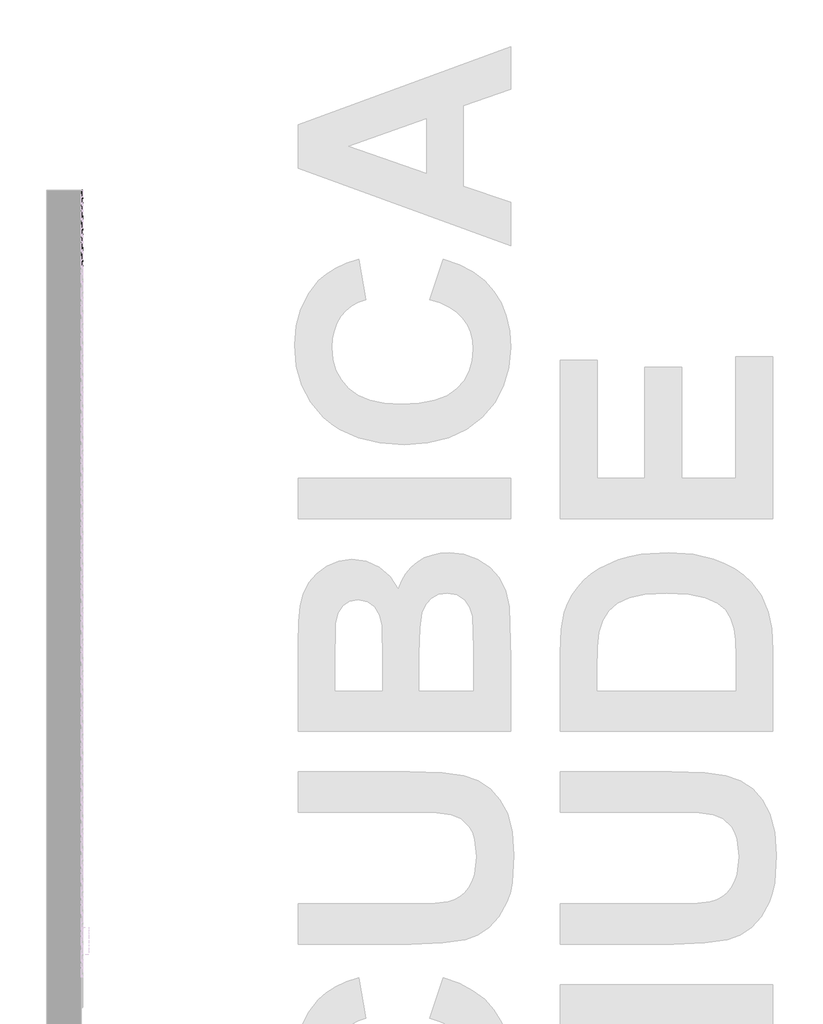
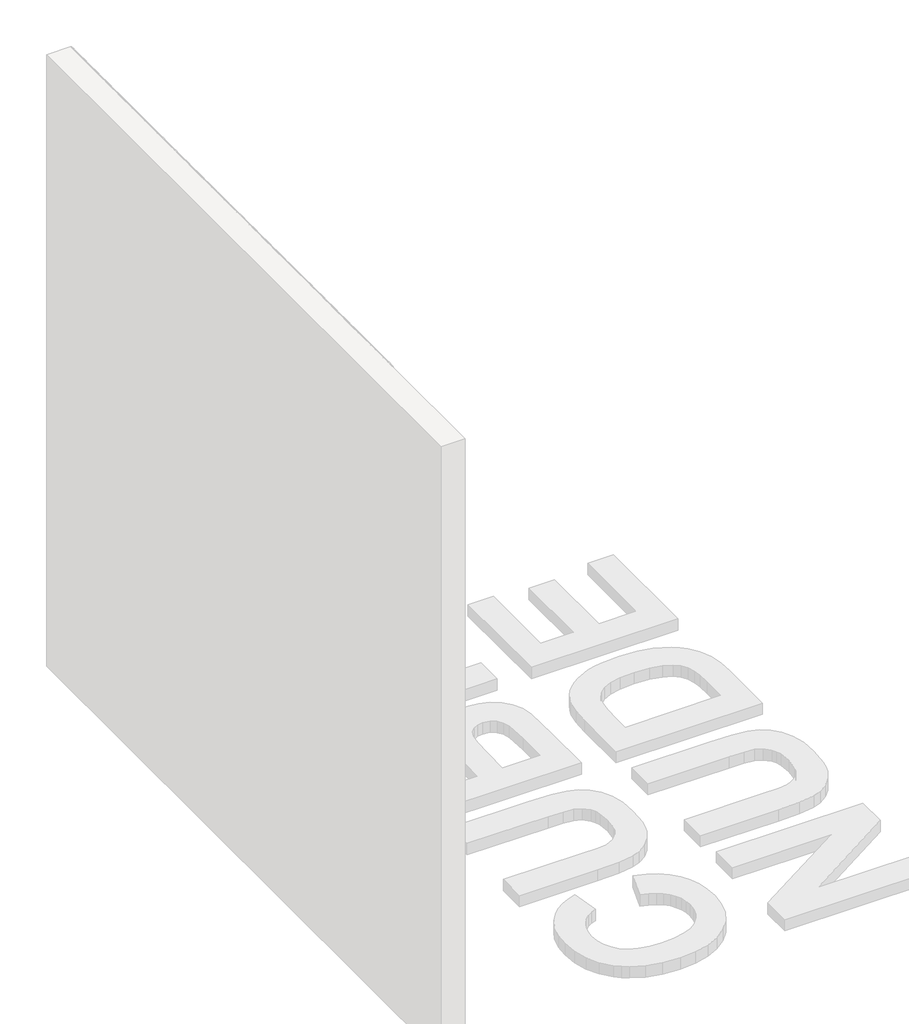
# One storey, part 72 of 121: 144 proxies.
"""IFC4 building model written with IfcOpenShell, lengths in millimetres."""

from ifc_helpers import new_model, si_unit, origin, place, context, project, spatial, transform, mapped, element, save
from components import generic_models_b2b2c5c1, generic_models_9bf73f6f, generic_models_5d175859, generic_models_7dea52c4, generic_models_3c04e8e5, generic_models_61989c10, generic_models_336a48c1

model = new_model("IFC4")

# Units and contexts
model_context = context("Model", 3, world=origin())
ifc_project = project(units=[si_unit("LENGTHUNIT", "METRE", prefix="MILLI")], contexts=[model_context])

# Site, building, storey
site = spatial("IfcSite", under=ifc_project)
building = spatial("IfcBuilding", under=site)
storey = spatial("IfcBuildingStorey", under=building, Name="PORTOBELLO - SHOWROOM", Elevation=0.0)

# Proxies
placement = place(None, origin())
generic_models_shape = generic_models_b2b2c5c1(model_context)
element("IfcBuildingElementProxy", 1, Name="PBSHOP - CUBICA NUDE 4,8X8,3 : CUBICA NUDE - POSIÇÃO 01", ObjectType="PBSHOP - CUBICA NUDE 4,8X8,3 : CUBICA NUDE - POSIÇÃO 01", at=placement, inside=storey, context=model_context, shape_type="MappedRepresentation", body=[
    mapped(generic_models_shape, transform((150369.5341846, 9076.3061883, 276.2260819), x_axis=(0.0, 1.0, 0.0), y_axis=(0.0, 0.0, 1.0), z_axis=(1.0, 0.0, 0.0))),
])
element("IfcBuildingElementProxy", 2, Name="PBSHOP - CUBICA NUDE 4,8X8,3 : CUBICA NUDE - POSIÇÃO 01", ObjectType="PBSHOP - CUBICA NUDE 4,8X8,3 : CUBICA NUDE - POSIÇÃO 01", at=placement, inside=storey, context=model_context, shape_type="MappedRepresentation", body=[
    mapped(generic_models_shape, transform((150369.5341846, 9167.1454575, 276.2260819), x_axis=(0.0, 1.0, 0.0), y_axis=(0.0, 0.0, 1.0), z_axis=(1.0, 0.0, 0.0))),
])
element("IfcBuildingElementProxy", 3, Name="PBSHOP - CUBICA NUDE 4,8X8,3 : CUBICA NUDE - POSIÇÃO 01", ObjectType="PBSHOP - CUBICA NUDE 4,8X8,3 : CUBICA NUDE - POSIÇÃO 01", at=placement, inside=storey, context=model_context, shape_type="MappedRepresentation", body=[
    mapped(generic_models_shape, transform((150369.5341846, 9030.8865536, 355.1607203), x_axis=(0.0, 1.0, 0.0), y_axis=(0.0, 0.0, 1.0), z_axis=(1.0, 0.0, 0.0))),
])
element("IfcBuildingElementProxy", 4, Name="PBSHOP - CUBICA NUDE 4,8X8,3 : CUBICA NUDE - POSIÇÃO 01", ObjectType="PBSHOP - CUBICA NUDE 4,8X8,3 : CUBICA NUDE - POSIÇÃO 01", at=placement, inside=storey, context=model_context, shape_type="MappedRepresentation", body=[
    mapped(generic_models_shape, transform((150369.5341846, 9121.7258229, 355.1607203), x_axis=(0.0, 1.0, 0.0), y_axis=(0.0, 0.0, 1.0), z_axis=(1.0, 0.0, 0.0))),
])
element("IfcBuildingElementProxy", 5, Name="PBSHOP - CUBICA NUDE 4,8X8,3 : CUBICA NUDE - POSIÇÃO 01", ObjectType="PBSHOP - CUBICA NUDE 4,8X8,3 : CUBICA NUDE - POSIÇÃO 01", at=placement, inside=storey, context=model_context, shape_type="MappedRepresentation", body=[
    mapped(generic_models_shape, transform((150369.5341846, 9076.3061883, 434.0953587), x_axis=(0.0, 1.0, 0.0), y_axis=(0.0, 0.0, 1.0), z_axis=(1.0, 0.0, 0.0))),
])
element("IfcBuildingElementProxy", 6, Name="PBSHOP - CUBICA NUDE 4,8X8,3 : CUBICA NUDE - POSIÇÃO 01", ObjectType="PBSHOP - CUBICA NUDE 4,8X8,3 : CUBICA NUDE - POSIÇÃO 01", at=placement, inside=storey, context=model_context, shape_type="MappedRepresentation", body=[
    mapped(generic_models_shape, transform((150369.5341846, 9167.1454575, 434.0953587), x_axis=(0.0, 1.0, 0.0), y_axis=(0.0, 0.0, 1.0), z_axis=(1.0, 0.0, 0.0))),
])
element("IfcBuildingElementProxy", 7, Name="PBSHOP - CUBICA NUDE 4,8X8,3 : CUBICA NUDE - POSIÇÃO 01", ObjectType="PBSHOP - CUBICA NUDE 4,8X8,3 : CUBICA NUDE - POSIÇÃO 01", at=placement, inside=storey, context=model_context, shape_type="MappedRepresentation", body=[
    mapped(generic_models_shape, transform((150369.5341846, 9030.8865536, 513.0299971), x_axis=(0.0, 1.0, 0.0), y_axis=(0.0, 0.0, 1.0), z_axis=(1.0, 0.0, 0.0))),
])
element("IfcBuildingElementProxy", 8, Name="PBSHOP - CUBICA NUDE 4,8X8,3 : CUBICA NUDE - POSIÇÃO 01", ObjectType="PBSHOP - CUBICA NUDE 4,8X8,3 : CUBICA NUDE - POSIÇÃO 01", at=placement, inside=storey, context=model_context, shape_type="MappedRepresentation", body=[
    mapped(generic_models_shape, transform((150369.5341846, 9121.7258229, 513.0299971), x_axis=(0.0, 1.0, 0.0), y_axis=(0.0, 0.0, 1.0), z_axis=(1.0, 0.0, 0.0))),
])
element("IfcBuildingElementProxy", 9, Name="PBSHOP - CUBICA NUDE 4,8X8,3 : CUBICA NUDE - POSIÇÃO 01", ObjectType="PBSHOP - CUBICA NUDE 4,8X8,3 : CUBICA NUDE - POSIÇÃO 01", at=placement, inside=storey, context=model_context, shape_type="MappedRepresentation", body=[
    mapped(generic_models_shape, transform((150369.5341846, 9076.3061883, 591.9646354), x_axis=(0.0, 1.0, 0.0), y_axis=(0.0, 0.0, 1.0), z_axis=(1.0, 0.0, 0.0))),
])
element("IfcBuildingElementProxy", 10, Name="PBSHOP - CUBICA NUDE 4,8X8,3 : CUBICA NUDE - POSIÇÃO 01", ObjectType="PBSHOP - CUBICA NUDE 4,8X8,3 : CUBICA NUDE - POSIÇÃO 01", at=placement, inside=storey, context=model_context, shape_type="MappedRepresentation", body=[
    mapped(generic_models_shape, transform((150369.5341846, 9167.1454575, 591.9646354), x_axis=(0.0, 1.0, 0.0), y_axis=(0.0, 0.0, 1.0), z_axis=(1.0, 0.0, 0.0))),
])
element("IfcBuildingElementProxy", 11, Name="PBSHOP - CUBICA NUDE 4,8X8,3 : CUBICA NUDE - POSIÇÃO 01", ObjectType="PBSHOP - CUBICA NUDE 4,8X8,3 : CUBICA NUDE - POSIÇÃO 01", at=placement, inside=storey, context=model_context, shape_type="MappedRepresentation", body=[
    mapped(generic_models_shape, transform((150369.5341846, 9030.8865536, 670.8992738), x_axis=(0.0, 1.0, 0.0), y_axis=(0.0, 0.0, 1.0), z_axis=(1.0, 0.0, 0.0))),
])
element("IfcBuildingElementProxy", 12, Name="PBSHOP - CUBICA NUDE 4,8X8,3 : CUBICA NUDE - POSIÇÃO 01", ObjectType="PBSHOP - CUBICA NUDE 4,8X8,3 : CUBICA NUDE - POSIÇÃO 01", at=placement, inside=storey, context=model_context, shape_type="MappedRepresentation", body=[
    mapped(generic_models_shape, transform((150369.5341846, 9121.7258229, 670.8992738), x_axis=(0.0, 1.0, 0.0), y_axis=(0.0, 0.0, 1.0), z_axis=(1.0, 0.0, 0.0))),
])
element("IfcBuildingElementProxy", 13, Name="PBSHOP - CUBICA NUDE 4,8X8,3 : CUBICA NUDE - POSIÇÃO 01", ObjectType="PBSHOP - CUBICA NUDE 4,8X8,3 : CUBICA NUDE - POSIÇÃO 01", at=placement, inside=storey, context=model_context, shape_type="MappedRepresentation", body=[
    mapped(generic_models_shape, transform((150369.5341846, 9076.3061883, 749.8339122), x_axis=(0.0, 1.0, 0.0), y_axis=(0.0, 0.0, 1.0), z_axis=(1.0, 0.0, 0.0))),
])
element("IfcBuildingElementProxy", 14, Name="PBSHOP - CUBICA NUDE 4,8X8,3 : CUBICA NUDE - POSIÇÃO 01", ObjectType="PBSHOP - CUBICA NUDE 4,8X8,3 : CUBICA NUDE - POSIÇÃO 01", at=placement, inside=storey, context=model_context, shape_type="MappedRepresentation", body=[
    mapped(generic_models_shape, transform((150369.5341846, 9167.1454575, 749.8339122), x_axis=(0.0, 1.0, 0.0), y_axis=(0.0, 0.0, 1.0), z_axis=(1.0, 0.0, 0.0))),
])
element("IfcBuildingElementProxy", 15, Name="PBSHOP - CUBICA NUDE 4,8X8,3 : CUBICA NUDE - POSIÇÃO 01", ObjectType="PBSHOP - CUBICA NUDE 4,8X8,3 : CUBICA NUDE - POSIÇÃO 01", at=placement, inside=storey, context=model_context, shape_type="MappedRepresentation", body=[
    mapped(generic_models_shape, transform((150369.5341846, 9030.8865536, 828.7685506), x_axis=(0.0, 1.0, 0.0), y_axis=(0.0, 0.0, 1.0), z_axis=(1.0, 0.0, 0.0))),
])
element("IfcBuildingElementProxy", 16, Name="PBSHOP - CUBICA NUDE 4,8X8,3 : CUBICA NUDE - POSIÇÃO 01", ObjectType="PBSHOP - CUBICA NUDE 4,8X8,3 : CUBICA NUDE - POSIÇÃO 01", at=placement, inside=storey, context=model_context, shape_type="MappedRepresentation", body=[
    mapped(generic_models_shape, transform((150369.5341846, 9121.7258229, 828.7685506), x_axis=(0.0, 1.0, 0.0), y_axis=(0.0, 0.0, 1.0), z_axis=(1.0, 0.0, 0.0))),
])
element("IfcBuildingElementProxy", 17, Name="PBSHOP - CUBICA NUDE 4,8X8,3 : CUBICA NUDE - POSIÇÃO 01", ObjectType="PBSHOP - CUBICA NUDE 4,8X8,3 : CUBICA NUDE - POSIÇÃO 01", at=placement, inside=storey, context=model_context, shape_type="MappedRepresentation", body=[
    mapped(generic_models_shape, transform((150369.5341846, 9076.3061883, 907.7031889), x_axis=(0.0, 1.0, 0.0), y_axis=(0.0, 0.0, 1.0), z_axis=(1.0, 0.0, 0.0))),
])
element("IfcBuildingElementProxy", 18, Name="PBSHOP - CUBICA NUDE 4,8X8,3 : CUBICA NUDE - POSIÇÃO 01", ObjectType="PBSHOP - CUBICA NUDE 4,8X8,3 : CUBICA NUDE - POSIÇÃO 01", at=placement, inside=storey, context=model_context, shape_type="MappedRepresentation", body=[
    mapped(generic_models_shape, transform((150369.5341846, 9167.1454575, 907.7031889), x_axis=(0.0, 1.0, 0.0), y_axis=(0.0, 0.0, 1.0), z_axis=(1.0, 0.0, 0.0))),
])
element("IfcBuildingElementProxy", 19, Name="PBSHOP - CUBICA NUDE 4,8X8,3 : CUBICA NUDE - POSIÇÃO 01", ObjectType="PBSHOP - CUBICA NUDE 4,8X8,3 : CUBICA NUDE - POSIÇÃO 01", at=placement, inside=storey, context=model_context, shape_type="MappedRepresentation", body=[
    mapped(generic_models_shape, transform((150369.5341846, 9030.8865536, 986.6378273), x_axis=(0.0, 1.0, 0.0), y_axis=(0.0, 0.0, 1.0), z_axis=(1.0, 0.0, 0.0))),
])
element("IfcBuildingElementProxy", 20, Name="PBSHOP - CUBICA NUDE 4,8X8,3 : CUBICA NUDE - POSIÇÃO 01", ObjectType="PBSHOP - CUBICA NUDE 4,8X8,3 : CUBICA NUDE - POSIÇÃO 01", at=placement, inside=storey, context=model_context, shape_type="MappedRepresentation", body=[
    mapped(generic_models_shape, transform((150369.5341846, 9121.7258229, 986.6378273), x_axis=(0.0, 1.0, 0.0), y_axis=(0.0, 0.0, 1.0), z_axis=(1.0, 0.0, 0.0))),
])
element("IfcBuildingElementProxy", 21, Name="PBSHOP - CUBICA NUDE 4,8X8,3 : CUBICA NUDE - POSIÇÃO 01", ObjectType="PBSHOP - CUBICA NUDE 4,8X8,3 : CUBICA NUDE - POSIÇÃO 01", at=placement, inside=storey, context=model_context, shape_type="MappedRepresentation", body=[
    mapped(generic_models_shape, transform((150369.5341846, 9076.3061883, 1065.5724657), x_axis=(0.0, 1.0, 0.0), y_axis=(0.0, 0.0, 1.0), z_axis=(1.0, 0.0, 0.0))),
])
element("IfcBuildingElementProxy", 22, Name="PBSHOP - CUBICA NUDE 4,8X8,3 : CUBICA NUDE - POSIÇÃO 01", ObjectType="PBSHOP - CUBICA NUDE 4,8X8,3 : CUBICA NUDE - POSIÇÃO 01", at=placement, inside=storey, context=model_context, shape_type="MappedRepresentation", body=[
    mapped(generic_models_shape, transform((150369.5341846, 9167.1454575, 1065.5724657), x_axis=(0.0, 1.0, 0.0), y_axis=(0.0, 0.0, 1.0), z_axis=(1.0, 0.0, 0.0))),
])
element("IfcBuildingElementProxy", 23, Name="PBSHOP - CUBICA NUDE 4,8X8,3 : CUBICA NUDE - POSIÇÃO 01", ObjectType="PBSHOP - CUBICA NUDE 4,8X8,3 : CUBICA NUDE - POSIÇÃO 01", at=placement, inside=storey, context=model_context, shape_type="MappedRepresentation", body=[
    mapped(generic_models_shape, transform((150369.5341846, 9030.8865536, 1144.507104), x_axis=(0.0, 1.0, 0.0), y_axis=(0.0, 0.0, 1.0), z_axis=(1.0, 0.0, 0.0))),
])
element("IfcBuildingElementProxy", 24, Name="PBSHOP - CUBICA NUDE 4,8X8,3 : CUBICA NUDE - POSIÇÃO 01", ObjectType="PBSHOP - CUBICA NUDE 4,8X8,3 : CUBICA NUDE - POSIÇÃO 01", at=placement, inside=storey, context=model_context, shape_type="MappedRepresentation", body=[
    mapped(generic_models_shape, transform((150369.5341846, 9121.7258229, 1144.507104), x_axis=(0.0, 1.0, 0.0), y_axis=(0.0, 0.0, 1.0), z_axis=(1.0, 0.0, 0.0))),
])
element("IfcBuildingElementProxy", 25, Name="PBSHOP - CUBICA NUDE 4,8X8,3 : CUBICA NUDE - POSIÇÃO 01", ObjectType="PBSHOP - CUBICA NUDE 4,8X8,3 : CUBICA NUDE - POSIÇÃO 01", at=placement, inside=storey, context=model_context, shape_type="MappedRepresentation", body=[
    mapped(generic_models_shape, transform((150369.5341846, 9076.3061883, 1223.4417424), x_axis=(0.0, 1.0, 0.0), y_axis=(0.0, 0.0, 1.0), z_axis=(1.0, 0.0, 0.0))),
])
element("IfcBuildingElementProxy", 26, Name="PBSHOP - CUBICA NUDE 4,8X8,3 : CUBICA NUDE - POSIÇÃO 01", ObjectType="PBSHOP - CUBICA NUDE 4,8X8,3 : CUBICA NUDE - POSIÇÃO 01", at=placement, inside=storey, context=model_context, shape_type="MappedRepresentation", body=[
    mapped(generic_models_shape, transform((150369.5341846, 9167.1454575, 1223.4417424), x_axis=(0.0, 1.0, 0.0), y_axis=(0.0, 0.0, 1.0), z_axis=(1.0, 0.0, 0.0))),
])
element("IfcBuildingElementProxy", 27, Name="PBSHOP - CUBICA NUDE 4,8X8,3 : CUBICA NUDE - POSIÇÃO 01", ObjectType="PBSHOP - CUBICA NUDE 4,8X8,3 : CUBICA NUDE - POSIÇÃO 01", at=placement, inside=storey, context=model_context, shape_type="MappedRepresentation", body=[
    mapped(generic_models_shape, transform((150369.5341846, 9030.8865536, 1302.3763808), x_axis=(0.0, 1.0, 0.0), y_axis=(0.0, 0.0, 1.0), z_axis=(1.0, 0.0, 0.0))),
])
element("IfcBuildingElementProxy", 28, Name="PBSHOP - CUBICA NUDE 4,8X8,3 : CUBICA NUDE - POSIÇÃO 01", ObjectType="PBSHOP - CUBICA NUDE 4,8X8,3 : CUBICA NUDE - POSIÇÃO 01", at=placement, inside=storey, context=model_context, shape_type="MappedRepresentation", body=[
    mapped(generic_models_shape, transform((150369.5341846, 9121.7258229, 1302.3763808), x_axis=(0.0, 1.0, 0.0), y_axis=(0.0, 0.0, 1.0), z_axis=(1.0, 0.0, 0.0))),
])
element("IfcBuildingElementProxy", 29, Name="PBSHOP - CUBICA NUDE 4,8X8,3 : CUBICA NUDE - POSIÇÃO 01", ObjectType="PBSHOP - CUBICA NUDE 4,8X8,3 : CUBICA NUDE - POSIÇÃO 01", at=placement, inside=storey, context=model_context, shape_type="MappedRepresentation", body=[
    mapped(generic_models_shape, transform((150369.5341846, 9076.3061883, 1381.3110192), x_axis=(0.0, 1.0, 0.0), y_axis=(0.0, 0.0, 1.0), z_axis=(1.0, 0.0, 0.0))),
])
element("IfcBuildingElementProxy", 30, Name="PBSHOP - CUBICA NUDE 4,8X8,3 : CUBICA NUDE - POSIÇÃO 01", ObjectType="PBSHOP - CUBICA NUDE 4,8X8,3 : CUBICA NUDE - POSIÇÃO 01", at=placement, inside=storey, context=model_context, shape_type="MappedRepresentation", body=[
    mapped(generic_models_shape, transform((150369.5341846, 9167.1454575, 1381.3110192), x_axis=(0.0, 1.0, 0.0), y_axis=(0.0, 0.0, 1.0), z_axis=(1.0, 0.0, 0.0))),
])
element("IfcBuildingElementProxy", 31, Name="PBSHOP - CUBICA NUDE 4,8X8,3 : CUBICA NUDE - POSIÇÃO 01", ObjectType="PBSHOP - CUBICA NUDE 4,8X8,3 : CUBICA NUDE - POSIÇÃO 01", at=placement, inside=storey, context=model_context, shape_type="MappedRepresentation", body=[
    mapped(generic_models_shape, transform((150369.5341846, 9030.8865536, 1460.2456575), x_axis=(0.0, 1.0, 0.0), y_axis=(0.0, 0.0, 1.0), z_axis=(1.0, 0.0, 0.0))),
])
element("IfcBuildingElementProxy", 32, Name="PBSHOP - CUBICA NUDE 4,8X8,3 : CUBICA NUDE - POSIÇÃO 01", ObjectType="PBSHOP - CUBICA NUDE 4,8X8,3 : CUBICA NUDE - POSIÇÃO 01", at=placement, inside=storey, context=model_context, shape_type="MappedRepresentation", body=[
    mapped(generic_models_shape, transform((150369.5341846, 9121.7258229, 1460.2456575), x_axis=(0.0, 1.0, 0.0), y_axis=(0.0, 0.0, 1.0), z_axis=(1.0, 0.0, 0.0))),
])
element("IfcBuildingElementProxy", 33, Name="PBSHOP - CUBICA NUDE 4,8X8,3 : CUBICA NUDE - POSIÇÃO 01", ObjectType="PBSHOP - CUBICA NUDE 4,8X8,3 : CUBICA NUDE - POSIÇÃO 01", at=placement, inside=storey, context=model_context, shape_type="MappedRepresentation", body=[
    mapped(generic_models_shape, transform((150369.5341846, 9076.3061883, 1539.1802959), x_axis=(0.0, 1.0, 0.0), y_axis=(0.0, 0.0, 1.0), z_axis=(1.0, 0.0, 0.0))),
])
element("IfcBuildingElementProxy", 34, Name="PBSHOP - CUBICA NUDE 4,8X8,3 : CUBICA NUDE - POSIÇÃO 01", ObjectType="PBSHOP - CUBICA NUDE 4,8X8,3 : CUBICA NUDE - POSIÇÃO 01", at=placement, inside=storey, context=model_context, shape_type="MappedRepresentation", body=[
    mapped(generic_models_shape, transform((150369.5341846, 9167.1454575, 1539.1802959), x_axis=(0.0, 1.0, 0.0), y_axis=(0.0, 0.0, 1.0), z_axis=(1.0, 0.0, 0.0))),
])
element("IfcBuildingElementProxy", 35, Name="PBSHOP - CUBICA NUDE 4,8X8,3 : CUBICA NUDE - POSIÇÃO 01", ObjectType="PBSHOP - CUBICA NUDE 4,8X8,3 : CUBICA NUDE - POSIÇÃO 01", at=placement, inside=storey, context=model_context, shape_type="MappedRepresentation", body=[
    mapped(generic_models_shape, transform((150369.5341846, 9030.8865536, 1618.1149343), x_axis=(0.0, 1.0, 0.0), y_axis=(0.0, 0.0, 1.0), z_axis=(1.0, 0.0, 0.0))),
])
element("IfcBuildingElementProxy", 36, Name="PBSHOP - CUBICA NUDE 4,8X8,3 : CUBICA NUDE - POSIÇÃO 01", ObjectType="PBSHOP - CUBICA NUDE 4,8X8,3 : CUBICA NUDE - POSIÇÃO 01", at=placement, inside=storey, context=model_context, shape_type="MappedRepresentation", body=[
    mapped(generic_models_shape, transform((150369.5341846, 9121.7258229, 1618.1149343), x_axis=(0.0, 1.0, 0.0), y_axis=(0.0, 0.0, 1.0), z_axis=(1.0, 0.0, 0.0))),
])
generic_models_2_shape = generic_models_9bf73f6f(model_context)
element("IfcBuildingElementProxy", 37, Name="PBSHOP - CUBICA NUDE 4,8X8,3 : CUBICA NUDE - POSIÇÃO 03", ObjectType="PBSHOP - CUBICA NUDE 4,8X8,3 : CUBICA NUDE - POSIÇÃO 03", at=placement, inside=storey, context=model_context, shape_type="MappedRepresentation", body=[
    mapped(generic_models_2_shape, transform((150369.5341846, 9099.0181647, 157.7829139), x_axis=(0.0, 1.0, 0.0), y_axis=(0.0, 0.0, 1.0), z_axis=(1.0, 0.0, 0.0))),
])
element("IfcBuildingElementProxy", 38, Name="PBSHOP - CUBICA NUDE 4,8X8,3 : CUBICA NUDE - POSIÇÃO 03", ObjectType="PBSHOP - CUBICA NUDE 4,8X8,3 : CUBICA NUDE - POSIÇÃO 03", at=placement, inside=storey, context=model_context, shape_type="MappedRepresentation", body=[
    mapped(generic_models_2_shape, transform((150369.5341846, 9053.5985301, 236.7175523), x_axis=(0.0, 1.0, 0.0), y_axis=(0.0, 0.0, 1.0), z_axis=(1.0, 0.0, 0.0))),
])
element("IfcBuildingElementProxy", 39, Name="PBSHOP - CUBICA NUDE 4,8X8,3 : CUBICA NUDE - POSIÇÃO 03", ObjectType="PBSHOP - CUBICA NUDE 4,8X8,3 : CUBICA NUDE - POSIÇÃO 03", at=placement, inside=storey, context=model_context, shape_type="MappedRepresentation", body=[
    mapped(generic_models_2_shape, transform((150369.5341846, 9144.4377994, 236.7175523), x_axis=(0.0, 1.0, 0.0), y_axis=(0.0, 0.0, 1.0), z_axis=(1.0, 0.0, 0.0))),
])
element("IfcBuildingElementProxy", 40, Name="PBSHOP - CUBICA NUDE 4,8X8,3 : CUBICA NUDE - POSIÇÃO 03", ObjectType="PBSHOP - CUBICA NUDE 4,8X8,3 : CUBICA NUDE - POSIÇÃO 03", at=placement, inside=storey, context=model_context, shape_type="MappedRepresentation", body=[
    mapped(generic_models_2_shape, transform((150369.5341846, 9008.1788955, 315.6521907), x_axis=(0.0, 1.0, 0.0), y_axis=(0.0, 0.0, 1.0), z_axis=(1.0, 0.0, 0.0))),
])
element("IfcBuildingElementProxy", 41, Name="PBSHOP - CUBICA NUDE 4,8X8,3 : CUBICA NUDE - POSIÇÃO 03", ObjectType="PBSHOP - CUBICA NUDE 4,8X8,3 : CUBICA NUDE - POSIÇÃO 03", at=placement, inside=storey, context=model_context, shape_type="MappedRepresentation", body=[
    mapped(generic_models_2_shape, transform((150369.5341846, 9099.0181647, 315.6521907), x_axis=(0.0, 1.0, 0.0), y_axis=(0.0, 0.0, 1.0), z_axis=(1.0, 0.0, 0.0))),
])
element("IfcBuildingElementProxy", 42, Name="PBSHOP - CUBICA NUDE 4,8X8,3 : CUBICA NUDE - POSIÇÃO 03", ObjectType="PBSHOP - CUBICA NUDE 4,8X8,3 : CUBICA NUDE - POSIÇÃO 03", at=placement, inside=storey, context=model_context, shape_type="MappedRepresentation", body=[
    mapped(generic_models_2_shape, transform((150369.5341846, 9053.5985301, 394.5868291), x_axis=(0.0, 1.0, 0.0), y_axis=(0.0, 0.0, 1.0), z_axis=(1.0, 0.0, 0.0))),
])
element("IfcBuildingElementProxy", 43, Name="PBSHOP - CUBICA NUDE 4,8X8,3 : CUBICA NUDE - POSIÇÃO 03", ObjectType="PBSHOP - CUBICA NUDE 4,8X8,3 : CUBICA NUDE - POSIÇÃO 03", at=placement, inside=storey, context=model_context, shape_type="MappedRepresentation", body=[
    mapped(generic_models_2_shape, transform((150369.5341846, 9144.4377994, 394.5868291), x_axis=(0.0, 1.0, 0.0), y_axis=(0.0, 0.0, 1.0), z_axis=(1.0, 0.0, 0.0))),
])
element("IfcBuildingElementProxy", 44, Name="PBSHOP - CUBICA NUDE 4,8X8,3 : CUBICA NUDE - POSIÇÃO 03", ObjectType="PBSHOP - CUBICA NUDE 4,8X8,3 : CUBICA NUDE - POSIÇÃO 03", at=placement, inside=storey, context=model_context, shape_type="MappedRepresentation", body=[
    mapped(generic_models_2_shape, transform((150369.5341846, 9008.1788955, 473.5214674), x_axis=(0.0, 1.0, 0.0), y_axis=(0.0, 0.0, 1.0), z_axis=(1.0, 0.0, 0.0))),
])
element("IfcBuildingElementProxy", 45, Name="PBSHOP - CUBICA NUDE 4,8X8,3 : CUBICA NUDE - POSIÇÃO 03", ObjectType="PBSHOP - CUBICA NUDE 4,8X8,3 : CUBICA NUDE - POSIÇÃO 03", at=placement, inside=storey, context=model_context, shape_type="MappedRepresentation", body=[
    mapped(generic_models_2_shape, transform((150369.5341846, 9099.0181647, 473.5214674), x_axis=(0.0, 1.0, 0.0), y_axis=(0.0, 0.0, 1.0), z_axis=(1.0, 0.0, 0.0))),
])
element("IfcBuildingElementProxy", 46, Name="PBSHOP - CUBICA NUDE 4,8X8,3 : CUBICA NUDE - POSIÇÃO 03", ObjectType="PBSHOP - CUBICA NUDE 4,8X8,3 : CUBICA NUDE - POSIÇÃO 03", at=placement, inside=storey, context=model_context, shape_type="MappedRepresentation", body=[
    mapped(generic_models_2_shape, transform((150369.5341846, 9053.5985301, 552.4561058), x_axis=(0.0, 1.0, 0.0), y_axis=(0.0, 0.0, 1.0), z_axis=(1.0, 0.0, 0.0))),
])
element("IfcBuildingElementProxy", 47, Name="PBSHOP - CUBICA NUDE 4,8X8,3 : CUBICA NUDE - POSIÇÃO 03", ObjectType="PBSHOP - CUBICA NUDE 4,8X8,3 : CUBICA NUDE - POSIÇÃO 03", at=placement, inside=storey, context=model_context, shape_type="MappedRepresentation", body=[
    mapped(generic_models_2_shape, transform((150369.5341846, 9144.4377994, 552.4561058), x_axis=(0.0, 1.0, 0.0), y_axis=(0.0, 0.0, 1.0), z_axis=(1.0, 0.0, 0.0))),
])
element("IfcBuildingElementProxy", 48, Name="PBSHOP - CUBICA NUDE 4,8X8,3 : CUBICA NUDE - POSIÇÃO 03", ObjectType="PBSHOP - CUBICA NUDE 4,8X8,3 : CUBICA NUDE - POSIÇÃO 03", at=placement, inside=storey, context=model_context, shape_type="MappedRepresentation", body=[
    mapped(generic_models_2_shape, transform((150369.5341846, 9008.1788955, 631.3907442), x_axis=(0.0, 1.0, 0.0), y_axis=(0.0, 0.0, 1.0), z_axis=(1.0, 0.0, 0.0))),
])
element("IfcBuildingElementProxy", 49, Name="PBSHOP - CUBICA NUDE 4,8X8,3 : CUBICA NUDE - POSIÇÃO 03", ObjectType="PBSHOP - CUBICA NUDE 4,8X8,3 : CUBICA NUDE - POSIÇÃO 03", at=placement, inside=storey, context=model_context, shape_type="MappedRepresentation", body=[
    mapped(generic_models_2_shape, transform((150369.5341846, 9099.0181647, 631.3907442), x_axis=(0.0, 1.0, 0.0), y_axis=(0.0, 0.0, 1.0), z_axis=(1.0, 0.0, 0.0))),
])
element("IfcBuildingElementProxy", 50, Name="PBSHOP - CUBICA NUDE 4,8X8,3 : CUBICA NUDE - POSIÇÃO 03", ObjectType="PBSHOP - CUBICA NUDE 4,8X8,3 : CUBICA NUDE - POSIÇÃO 03", at=placement, inside=storey, context=model_context, shape_type="MappedRepresentation", body=[
    mapped(generic_models_2_shape, transform((150369.5341846, 9053.5985301, 710.3253826), x_axis=(0.0, 1.0, 0.0), y_axis=(0.0, 0.0, 1.0), z_axis=(1.0, 0.0, 0.0))),
])
element("IfcBuildingElementProxy", 51, Name="PBSHOP - CUBICA NUDE 4,8X8,3 : CUBICA NUDE - POSIÇÃO 03", ObjectType="PBSHOP - CUBICA NUDE 4,8X8,3 : CUBICA NUDE - POSIÇÃO 03", at=placement, inside=storey, context=model_context, shape_type="MappedRepresentation", body=[
    mapped(generic_models_2_shape, transform((150369.5341846, 9144.4377994, 710.3253826), x_axis=(0.0, 1.0, 0.0), y_axis=(0.0, 0.0, 1.0), z_axis=(1.0, 0.0, 0.0))),
])
element("IfcBuildingElementProxy", 52, Name="PBSHOP - CUBICA NUDE 4,8X8,3 : CUBICA NUDE - POSIÇÃO 03", ObjectType="PBSHOP - CUBICA NUDE 4,8X8,3 : CUBICA NUDE - POSIÇÃO 03", at=placement, inside=storey, context=model_context, shape_type="MappedRepresentation", body=[
    mapped(generic_models_2_shape, transform((150369.5341846, 9008.1788955, 789.2600209), x_axis=(0.0, 1.0, 0.0), y_axis=(0.0, 0.0, 1.0), z_axis=(1.0, 0.0, 0.0))),
])
element("IfcBuildingElementProxy", 53, Name="PBSHOP - CUBICA NUDE 4,8X8,3 : CUBICA NUDE - POSIÇÃO 03", ObjectType="PBSHOP - CUBICA NUDE 4,8X8,3 : CUBICA NUDE - POSIÇÃO 03", at=placement, inside=storey, context=model_context, shape_type="MappedRepresentation", body=[
    mapped(generic_models_2_shape, transform((150369.5341846, 9099.0181647, 789.2600209), x_axis=(0.0, 1.0, 0.0), y_axis=(0.0, 0.0, 1.0), z_axis=(1.0, 0.0, 0.0))),
])
element("IfcBuildingElementProxy", 54, Name="PBSHOP - CUBICA NUDE 4,8X8,3 : CUBICA NUDE - POSIÇÃO 03", ObjectType="PBSHOP - CUBICA NUDE 4,8X8,3 : CUBICA NUDE - POSIÇÃO 03", at=placement, inside=storey, context=model_context, shape_type="MappedRepresentation", body=[
    mapped(generic_models_2_shape, transform((150369.5341846, 9053.5985301, 868.1946593), x_axis=(0.0, 1.0, 0.0), y_axis=(0.0, 0.0, 1.0), z_axis=(1.0, 0.0, 0.0))),
])
element("IfcBuildingElementProxy", 55, Name="PBSHOP - CUBICA NUDE 4,8X8,3 : CUBICA NUDE - POSIÇÃO 03", ObjectType="PBSHOP - CUBICA NUDE 4,8X8,3 : CUBICA NUDE - POSIÇÃO 03", at=placement, inside=storey, context=model_context, shape_type="MappedRepresentation", body=[
    mapped(generic_models_2_shape, transform((150369.5341846, 9144.4377994, 868.1946593), x_axis=(0.0, 1.0, 0.0), y_axis=(0.0, 0.0, 1.0), z_axis=(1.0, 0.0, 0.0))),
])
element("IfcBuildingElementProxy", 56, Name="PBSHOP - CUBICA NUDE 4,8X8,3 : CUBICA NUDE - POSIÇÃO 03", ObjectType="PBSHOP - CUBICA NUDE 4,8X8,3 : CUBICA NUDE - POSIÇÃO 03", at=placement, inside=storey, context=model_context, shape_type="MappedRepresentation", body=[
    mapped(generic_models_2_shape, transform((150369.5341846, 9008.1788955, 947.1292977), x_axis=(0.0, 1.0, 0.0), y_axis=(0.0, 0.0, 1.0), z_axis=(1.0, 0.0, 0.0))),
])
element("IfcBuildingElementProxy", 57, Name="PBSHOP - CUBICA NUDE 4,8X8,3 : CUBICA NUDE - POSIÇÃO 03", ObjectType="PBSHOP - CUBICA NUDE 4,8X8,3 : CUBICA NUDE - POSIÇÃO 03", at=placement, inside=storey, context=model_context, shape_type="MappedRepresentation", body=[
    mapped(generic_models_2_shape, transform((150369.5341846, 9099.0181647, 947.1292977), x_axis=(0.0, 1.0, 0.0), y_axis=(0.0, 0.0, 1.0), z_axis=(1.0, 0.0, 0.0))),
])
element("IfcBuildingElementProxy", 58, Name="PBSHOP - CUBICA NUDE 4,8X8,3 : CUBICA NUDE - POSIÇÃO 03", ObjectType="PBSHOP - CUBICA NUDE 4,8X8,3 : CUBICA NUDE - POSIÇÃO 03", at=placement, inside=storey, context=model_context, shape_type="MappedRepresentation", body=[
    mapped(generic_models_2_shape, transform((150369.5341846, 9053.5985301, 1026.0639361), x_axis=(0.0, 1.0, 0.0), y_axis=(0.0, 0.0, 1.0), z_axis=(1.0, 0.0, 0.0))),
])
element("IfcBuildingElementProxy", 59, Name="PBSHOP - CUBICA NUDE 4,8X8,3 : CUBICA NUDE - POSIÇÃO 03", ObjectType="PBSHOP - CUBICA NUDE 4,8X8,3 : CUBICA NUDE - POSIÇÃO 03", at=placement, inside=storey, context=model_context, shape_type="MappedRepresentation", body=[
    mapped(generic_models_2_shape, transform((150369.5341846, 9144.4377994, 1026.0639361), x_axis=(0.0, 1.0, 0.0), y_axis=(0.0, 0.0, 1.0), z_axis=(1.0, 0.0, 0.0))),
])
element("IfcBuildingElementProxy", 60, Name="PBSHOP - CUBICA NUDE 4,8X8,3 : CUBICA NUDE - POSIÇÃO 03", ObjectType="PBSHOP - CUBICA NUDE 4,8X8,3 : CUBICA NUDE - POSIÇÃO 03", at=placement, inside=storey, context=model_context, shape_type="MappedRepresentation", body=[
    mapped(generic_models_2_shape, transform((150369.5341846, 9008.1788955, 1104.9985744), x_axis=(0.0, 1.0, 0.0), y_axis=(0.0, 0.0, 1.0), z_axis=(1.0, 0.0, 0.0))),
])
element("IfcBuildingElementProxy", 61, Name="PBSHOP - CUBICA NUDE 4,8X8,3 : CUBICA NUDE - POSIÇÃO 03", ObjectType="PBSHOP - CUBICA NUDE 4,8X8,3 : CUBICA NUDE - POSIÇÃO 03", at=placement, inside=storey, context=model_context, shape_type="MappedRepresentation", body=[
    mapped(generic_models_2_shape, transform((150369.5341846, 9099.0181647, 1104.9985744), x_axis=(0.0, 1.0, 0.0), y_axis=(0.0, 0.0, 1.0), z_axis=(1.0, 0.0, 0.0))),
])
element("IfcBuildingElementProxy", 62, Name="PBSHOP - CUBICA NUDE 4,8X8,3 : CUBICA NUDE - POSIÇÃO 03", ObjectType="PBSHOP - CUBICA NUDE 4,8X8,3 : CUBICA NUDE - POSIÇÃO 03", at=placement, inside=storey, context=model_context, shape_type="MappedRepresentation", body=[
    mapped(generic_models_2_shape, transform((150369.5341846, 9053.5985301, 1183.9332128), x_axis=(0.0, 1.0, 0.0), y_axis=(0.0, 0.0, 1.0), z_axis=(1.0, 0.0, 0.0))),
])
element("IfcBuildingElementProxy", 63, Name="PBSHOP - CUBICA NUDE 4,8X8,3 : CUBICA NUDE - POSIÇÃO 03", ObjectType="PBSHOP - CUBICA NUDE 4,8X8,3 : CUBICA NUDE - POSIÇÃO 03", at=placement, inside=storey, context=model_context, shape_type="MappedRepresentation", body=[
    mapped(generic_models_2_shape, transform((150369.5341846, 9144.4377994, 1183.9332128), x_axis=(0.0, 1.0, 0.0), y_axis=(0.0, 0.0, 1.0), z_axis=(1.0, 0.0, 0.0))),
])
element("IfcBuildingElementProxy", 64, Name="PBSHOP - CUBICA NUDE 4,8X8,3 : CUBICA NUDE - POSIÇÃO 03", ObjectType="PBSHOP - CUBICA NUDE 4,8X8,3 : CUBICA NUDE - POSIÇÃO 03", at=placement, inside=storey, context=model_context, shape_type="MappedRepresentation", body=[
    mapped(generic_models_2_shape, transform((150369.5341846, 9008.1788955, 1262.8678512), x_axis=(0.0, 1.0, 0.0), y_axis=(0.0, 0.0, 1.0), z_axis=(1.0, 0.0, 0.0))),
])
element("IfcBuildingElementProxy", 65, Name="PBSHOP - CUBICA NUDE 4,8X8,3 : CUBICA NUDE - POSIÇÃO 03", ObjectType="PBSHOP - CUBICA NUDE 4,8X8,3 : CUBICA NUDE - POSIÇÃO 03", at=placement, inside=storey, context=model_context, shape_type="MappedRepresentation", body=[
    mapped(generic_models_2_shape, transform((150369.5341846, 9099.0181647, 1262.8678512), x_axis=(0.0, 1.0, 0.0), y_axis=(0.0, 0.0, 1.0), z_axis=(1.0, 0.0, 0.0))),
])
element("IfcBuildingElementProxy", 66, Name="PBSHOP - CUBICA NUDE 4,8X8,3 : CUBICA NUDE - POSIÇÃO 03", ObjectType="PBSHOP - CUBICA NUDE 4,8X8,3 : CUBICA NUDE - POSIÇÃO 03", at=placement, inside=storey, context=model_context, shape_type="MappedRepresentation", body=[
    mapped(generic_models_2_shape, transform((150369.5341846, 9053.5985301, 1341.8024896), x_axis=(0.0, 1.0, 0.0), y_axis=(0.0, 0.0, 1.0), z_axis=(1.0, 0.0, 0.0))),
])
element("IfcBuildingElementProxy", 67, Name="PBSHOP - CUBICA NUDE 4,8X8,3 : CUBICA NUDE - POSIÇÃO 03", ObjectType="PBSHOP - CUBICA NUDE 4,8X8,3 : CUBICA NUDE - POSIÇÃO 03", at=placement, inside=storey, context=model_context, shape_type="MappedRepresentation", body=[
    mapped(generic_models_2_shape, transform((150369.5341846, 9144.4377994, 1341.8024896), x_axis=(0.0, 1.0, 0.0), y_axis=(0.0, 0.0, 1.0), z_axis=(1.0, 0.0, 0.0))),
])
element("IfcBuildingElementProxy", 68, Name="PBSHOP - CUBICA NUDE 4,8X8,3 : CUBICA NUDE - POSIÇÃO 03", ObjectType="PBSHOP - CUBICA NUDE 4,8X8,3 : CUBICA NUDE - POSIÇÃO 03", at=placement, inside=storey, context=model_context, shape_type="MappedRepresentation", body=[
    mapped(generic_models_2_shape, transform((150369.5341846, 9008.1788955, 1420.7371279), x_axis=(0.0, 1.0, 0.0), y_axis=(0.0, 0.0, 1.0), z_axis=(1.0, 0.0, 0.0))),
])
element("IfcBuildingElementProxy", 69, Name="PBSHOP - CUBICA NUDE 4,8X8,3 : CUBICA NUDE - POSIÇÃO 03", ObjectType="PBSHOP - CUBICA NUDE 4,8X8,3 : CUBICA NUDE - POSIÇÃO 03", at=placement, inside=storey, context=model_context, shape_type="MappedRepresentation", body=[
    mapped(generic_models_2_shape, transform((150369.5341846, 9099.0181647, 1420.7371279), x_axis=(0.0, 1.0, 0.0), y_axis=(0.0, 0.0, 1.0), z_axis=(1.0, 0.0, 0.0))),
])
element("IfcBuildingElementProxy", 70, Name="PBSHOP - CUBICA NUDE 4,8X8,3 : CUBICA NUDE - POSIÇÃO 03", ObjectType="PBSHOP - CUBICA NUDE 4,8X8,3 : CUBICA NUDE - POSIÇÃO 03", at=placement, inside=storey, context=model_context, shape_type="MappedRepresentation", body=[
    mapped(generic_models_2_shape, transform((150369.5341846, 9053.5985301, 1499.6717663), x_axis=(0.0, 1.0, 0.0), y_axis=(0.0, 0.0, 1.0), z_axis=(1.0, 0.0, 0.0))),
])
element("IfcBuildingElementProxy", 71, Name="PBSHOP - CUBICA NUDE 4,8X8,3 : CUBICA NUDE - POSIÇÃO 03", ObjectType="PBSHOP - CUBICA NUDE 4,8X8,3 : CUBICA NUDE - POSIÇÃO 03", at=placement, inside=storey, context=model_context, shape_type="MappedRepresentation", body=[
    mapped(generic_models_2_shape, transform((150369.5341846, 9144.4377994, 1499.6717663), x_axis=(0.0, 1.0, 0.0), y_axis=(0.0, 0.0, 1.0), z_axis=(1.0, 0.0, 0.0))),
])
element("IfcBuildingElementProxy", 72, Name="PBSHOP - CUBICA NUDE 4,8X8,3 : CUBICA NUDE - POSIÇÃO 03", ObjectType="PBSHOP - CUBICA NUDE 4,8X8,3 : CUBICA NUDE - POSIÇÃO 03", at=placement, inside=storey, context=model_context, shape_type="MappedRepresentation", body=[
    mapped(generic_models_2_shape, transform((150369.5341846, 9008.1788955, 1578.6064047), x_axis=(0.0, 1.0, 0.0), y_axis=(0.0, 0.0, 1.0), z_axis=(1.0, 0.0, 0.0))),
])
generic_models_3_shape = generic_models_5d175859(model_context)
element("IfcBuildingElementProxy", 73, Name="PBSHOP - CUBICA NUDE 4,8X8,3 : CUBICA NUDE - POSIÇÃO 01", ObjectType="PBSHOP - CUBICA NUDE 4,8X8,3 : CUBICA NUDE - POSIÇÃO 01", at=placement, inside=storey, context=model_context, shape_type="MappedRepresentation", body=[
    mapped(generic_models_3_shape, transform((150369.5341846, 9030.890872, 276.2260819), x_axis=(0.0, -1.0, 0.0), y_axis=(0.0, 0.0, -1.0), z_axis=(1.0, 0.0, 0.0))),
])
element("IfcBuildingElementProxy", 74, Name="PBSHOP - CUBICA NUDE 4,8X8,3 : CUBICA NUDE - POSIÇÃO 01", ObjectType="PBSHOP - CUBICA NUDE 4,8X8,3 : CUBICA NUDE - POSIÇÃO 01", at=placement, inside=storey, context=model_context, shape_type="MappedRepresentation", body=[
    mapped(generic_models_3_shape, transform((150369.5341846, 9121.7301412, 276.2260819), x_axis=(0.0, -1.0, 0.0), y_axis=(0.0, 0.0, -1.0), z_axis=(1.0, 0.0, 0.0))),
])
element("IfcBuildingElementProxy", 75, Name="PBSHOP - CUBICA NUDE 4,8X8,3 : CUBICA NUDE - POSIÇÃO 01", ObjectType="PBSHOP - CUBICA NUDE 4,8X8,3 : CUBICA NUDE - POSIÇÃO 01", at=placement, inside=storey, context=model_context, shape_type="MappedRepresentation", body=[
    mapped(generic_models_3_shape, transform((150369.5341846, 9076.3105066, 355.1607203), x_axis=(0.0, -1.0, 0.0), y_axis=(0.0, 0.0, -1.0), z_axis=(1.0, 0.0, 0.0))),
])
element("IfcBuildingElementProxy", 76, Name="PBSHOP - CUBICA NUDE 4,8X8,3 : CUBICA NUDE - POSIÇÃO 01", ObjectType="PBSHOP - CUBICA NUDE 4,8X8,3 : CUBICA NUDE - POSIÇÃO 01", at=placement, inside=storey, context=model_context, shape_type="MappedRepresentation", body=[
    mapped(generic_models_3_shape, transform((150369.5341846, 9167.1497758, 355.1607203), x_axis=(0.0, -1.0, 0.0), y_axis=(0.0, 0.0, -1.0), z_axis=(1.0, 0.0, 0.0))),
])
element("IfcBuildingElementProxy", 77, Name="PBSHOP - CUBICA NUDE 4,8X8,3 : CUBICA NUDE - POSIÇÃO 01", ObjectType="PBSHOP - CUBICA NUDE 4,8X8,3 : CUBICA NUDE - POSIÇÃO 01", at=placement, inside=storey, context=model_context, shape_type="MappedRepresentation", body=[
    mapped(generic_models_3_shape, transform((150369.5341846, 9030.890872, 434.0953587), x_axis=(0.0, -1.0, 0.0), y_axis=(0.0, 0.0, -1.0), z_axis=(1.0, 0.0, 0.0))),
])
element("IfcBuildingElementProxy", 78, Name="PBSHOP - CUBICA NUDE 4,8X8,3 : CUBICA NUDE - POSIÇÃO 01", ObjectType="PBSHOP - CUBICA NUDE 4,8X8,3 : CUBICA NUDE - POSIÇÃO 01", at=placement, inside=storey, context=model_context, shape_type="MappedRepresentation", body=[
    mapped(generic_models_3_shape, transform((150369.5341846, 9121.7301412, 434.0953587), x_axis=(0.0, -1.0, 0.0), y_axis=(0.0, 0.0, -1.0), z_axis=(1.0, 0.0, 0.0))),
])
element("IfcBuildingElementProxy", 79, Name="PBSHOP - CUBICA NUDE 4,8X8,3 : CUBICA NUDE - POSIÇÃO 01", ObjectType="PBSHOP - CUBICA NUDE 4,8X8,3 : CUBICA NUDE - POSIÇÃO 01", at=placement, inside=storey, context=model_context, shape_type="MappedRepresentation", body=[
    mapped(generic_models_3_shape, transform((150369.5341846, 9076.3105066, 513.0299971), x_axis=(0.0, -1.0, 0.0), y_axis=(0.0, 0.0, -1.0), z_axis=(1.0, 0.0, 0.0))),
])
element("IfcBuildingElementProxy", 80, Name="PBSHOP - CUBICA NUDE 4,8X8,3 : CUBICA NUDE - POSIÇÃO 01", ObjectType="PBSHOP - CUBICA NUDE 4,8X8,3 : CUBICA NUDE - POSIÇÃO 01", at=placement, inside=storey, context=model_context, shape_type="MappedRepresentation", body=[
    mapped(generic_models_3_shape, transform((150369.5341846, 9167.1497758, 513.0299971), x_axis=(0.0, -1.0, 0.0), y_axis=(0.0, 0.0, -1.0), z_axis=(1.0, 0.0, 0.0))),
])
element("IfcBuildingElementProxy", 81, Name="PBSHOP - CUBICA NUDE 4,8X8,3 : CUBICA NUDE - POSIÇÃO 01", ObjectType="PBSHOP - CUBICA NUDE 4,8X8,3 : CUBICA NUDE - POSIÇÃO 01", at=placement, inside=storey, context=model_context, shape_type="MappedRepresentation", body=[
    mapped(generic_models_3_shape, transform((150369.5341846, 9030.890872, 591.9646354), x_axis=(0.0, -1.0, 0.0), y_axis=(0.0, 0.0, -1.0), z_axis=(1.0, 0.0, 0.0))),
])
element("IfcBuildingElementProxy", 82, Name="PBSHOP - CUBICA NUDE 4,8X8,3 : CUBICA NUDE - POSIÇÃO 01", ObjectType="PBSHOP - CUBICA NUDE 4,8X8,3 : CUBICA NUDE - POSIÇÃO 01", at=placement, inside=storey, context=model_context, shape_type="MappedRepresentation", body=[
    mapped(generic_models_3_shape, transform((150369.5341846, 9121.7301412, 591.9646354), x_axis=(0.0, -1.0, 0.0), y_axis=(0.0, 0.0, -1.0), z_axis=(1.0, 0.0, 0.0))),
])
element("IfcBuildingElementProxy", 83, Name="PBSHOP - CUBICA NUDE 4,8X8,3 : CUBICA NUDE - POSIÇÃO 01", ObjectType="PBSHOP - CUBICA NUDE 4,8X8,3 : CUBICA NUDE - POSIÇÃO 01", at=placement, inside=storey, context=model_context, shape_type="MappedRepresentation", body=[
    mapped(generic_models_3_shape, transform((150369.5341846, 9076.3105066, 670.8992738), x_axis=(0.0, -1.0, 0.0), y_axis=(0.0, 0.0, -1.0), z_axis=(1.0, 0.0, 0.0))),
])
element("IfcBuildingElementProxy", 84, Name="PBSHOP - CUBICA NUDE 4,8X8,3 : CUBICA NUDE - POSIÇÃO 01", ObjectType="PBSHOP - CUBICA NUDE 4,8X8,3 : CUBICA NUDE - POSIÇÃO 01", at=placement, inside=storey, context=model_context, shape_type="MappedRepresentation", body=[
    mapped(generic_models_3_shape, transform((150369.5341846, 9167.1497758, 670.8992738), x_axis=(0.0, -1.0, 0.0), y_axis=(0.0, 0.0, -1.0), z_axis=(1.0, 0.0, 0.0))),
])
element("IfcBuildingElementProxy", 85, Name="PBSHOP - CUBICA NUDE 4,8X8,3 : CUBICA NUDE - POSIÇÃO 01", ObjectType="PBSHOP - CUBICA NUDE 4,8X8,3 : CUBICA NUDE - POSIÇÃO 01", at=placement, inside=storey, context=model_context, shape_type="MappedRepresentation", body=[
    mapped(generic_models_3_shape, transform((150369.5341846, 9030.890872, 749.8339122), x_axis=(0.0, -1.0, 0.0), y_axis=(0.0, 0.0, -1.0), z_axis=(1.0, 0.0, 0.0))),
])
element("IfcBuildingElementProxy", 86, Name="PBSHOP - CUBICA NUDE 4,8X8,3 : CUBICA NUDE - POSIÇÃO 01", ObjectType="PBSHOP - CUBICA NUDE 4,8X8,3 : CUBICA NUDE - POSIÇÃO 01", at=placement, inside=storey, context=model_context, shape_type="MappedRepresentation", body=[
    mapped(generic_models_3_shape, transform((150369.5341846, 9121.7301412, 749.8339122), x_axis=(0.0, -1.0, 0.0), y_axis=(0.0, 0.0, -1.0), z_axis=(1.0, 0.0, 0.0))),
])
element("IfcBuildingElementProxy", 87, Name="PBSHOP - CUBICA NUDE 4,8X8,3 : CUBICA NUDE - POSIÇÃO 01", ObjectType="PBSHOP - CUBICA NUDE 4,8X8,3 : CUBICA NUDE - POSIÇÃO 01", at=placement, inside=storey, context=model_context, shape_type="MappedRepresentation", body=[
    mapped(generic_models_3_shape, transform((150369.5341846, 9076.3105066, 828.7685506), x_axis=(0.0, -1.0, 0.0), y_axis=(0.0, 0.0, -1.0), z_axis=(1.0, 0.0, 0.0))),
])
element("IfcBuildingElementProxy", 88, Name="PBSHOP - CUBICA NUDE 4,8X8,3 : CUBICA NUDE - POSIÇÃO 01", ObjectType="PBSHOP - CUBICA NUDE 4,8X8,3 : CUBICA NUDE - POSIÇÃO 01", at=placement, inside=storey, context=model_context, shape_type="MappedRepresentation", body=[
    mapped(generic_models_3_shape, transform((150369.5341846, 9167.1497758, 828.7685506), x_axis=(0.0, -1.0, 0.0), y_axis=(0.0, 0.0, -1.0), z_axis=(1.0, 0.0, 0.0))),
])
element("IfcBuildingElementProxy", 89, Name="PBSHOP - CUBICA NUDE 4,8X8,3 : CUBICA NUDE - POSIÇÃO 01", ObjectType="PBSHOP - CUBICA NUDE 4,8X8,3 : CUBICA NUDE - POSIÇÃO 01", at=placement, inside=storey, context=model_context, shape_type="MappedRepresentation", body=[
    mapped(generic_models_3_shape, transform((150369.5341846, 9030.890872, 907.7031889), x_axis=(0.0, -1.0, 0.0), y_axis=(0.0, 0.0, -1.0), z_axis=(1.0, 0.0, 0.0))),
])
element("IfcBuildingElementProxy", 90, Name="PBSHOP - CUBICA NUDE 4,8X8,3 : CUBICA NUDE - POSIÇÃO 01", ObjectType="PBSHOP - CUBICA NUDE 4,8X8,3 : CUBICA NUDE - POSIÇÃO 01", at=placement, inside=storey, context=model_context, shape_type="MappedRepresentation", body=[
    mapped(generic_models_3_shape, transform((150369.5341846, 9121.7301412, 907.7031889), x_axis=(0.0, -1.0, 0.0), y_axis=(0.0, 0.0, -1.0), z_axis=(1.0, 0.0, 0.0))),
])
element("IfcBuildingElementProxy", 91, Name="PBSHOP - CUBICA NUDE 4,8X8,3 : CUBICA NUDE - POSIÇÃO 01", ObjectType="PBSHOP - CUBICA NUDE 4,8X8,3 : CUBICA NUDE - POSIÇÃO 01", at=placement, inside=storey, context=model_context, shape_type="MappedRepresentation", body=[
    mapped(generic_models_3_shape, transform((150369.5341846, 9076.3105066, 986.6378273), x_axis=(0.0, -1.0, 0.0), y_axis=(0.0, 0.0, -1.0), z_axis=(1.0, 0.0, 0.0))),
])
element("IfcBuildingElementProxy", 92, Name="PBSHOP - CUBICA NUDE 4,8X8,3 : CUBICA NUDE - POSIÇÃO 01", ObjectType="PBSHOP - CUBICA NUDE 4,8X8,3 : CUBICA NUDE - POSIÇÃO 01", at=placement, inside=storey, context=model_context, shape_type="MappedRepresentation", body=[
    mapped(generic_models_3_shape, transform((150369.5341846, 9167.1497758, 986.6378273), x_axis=(0.0, -1.0, 0.0), y_axis=(0.0, 0.0, -1.0), z_axis=(1.0, 0.0, 0.0))),
])
element("IfcBuildingElementProxy", 93, Name="PBSHOP - CUBICA NUDE 4,8X8,3 : CUBICA NUDE - POSIÇÃO 01", ObjectType="PBSHOP - CUBICA NUDE 4,8X8,3 : CUBICA NUDE - POSIÇÃO 01", at=placement, inside=storey, context=model_context, shape_type="MappedRepresentation", body=[
    mapped(generic_models_3_shape, transform((150369.5341846, 9030.890872, 1065.5724657), x_axis=(0.0, -1.0, 0.0), y_axis=(0.0, 0.0, -1.0), z_axis=(1.0, 0.0, 0.0))),
])
element("IfcBuildingElementProxy", 94, Name="PBSHOP - CUBICA NUDE 4,8X8,3 : CUBICA NUDE - POSIÇÃO 01", ObjectType="PBSHOP - CUBICA NUDE 4,8X8,3 : CUBICA NUDE - POSIÇÃO 01", at=placement, inside=storey, context=model_context, shape_type="MappedRepresentation", body=[
    mapped(generic_models_3_shape, transform((150369.5341846, 9121.7301412, 1065.5724657), x_axis=(0.0, -1.0, 0.0), y_axis=(0.0, 0.0, -1.0), z_axis=(1.0, 0.0, 0.0))),
])
element("IfcBuildingElementProxy", 95, Name="PBSHOP - CUBICA NUDE 4,8X8,3 : CUBICA NUDE - POSIÇÃO 01", ObjectType="PBSHOP - CUBICA NUDE 4,8X8,3 : CUBICA NUDE - POSIÇÃO 01", at=placement, inside=storey, context=model_context, shape_type="MappedRepresentation", body=[
    mapped(generic_models_3_shape, transform((150369.5341846, 9076.3105066, 1144.507104), x_axis=(0.0, -1.0, 0.0), y_axis=(0.0, 0.0, -1.0), z_axis=(1.0, 0.0, 0.0))),
])
element("IfcBuildingElementProxy", 96, Name="PBSHOP - CUBICA NUDE 4,8X8,3 : CUBICA NUDE - POSIÇÃO 01", ObjectType="PBSHOP - CUBICA NUDE 4,8X8,3 : CUBICA NUDE - POSIÇÃO 01", at=placement, inside=storey, context=model_context, shape_type="MappedRepresentation", body=[
    mapped(generic_models_3_shape, transform((150369.5341846, 9167.1497758, 1144.507104), x_axis=(0.0, -1.0, 0.0), y_axis=(0.0, 0.0, -1.0), z_axis=(1.0, 0.0, 0.0))),
])
element("IfcBuildingElementProxy", 97, Name="PBSHOP - CUBICA NUDE 4,8X8,3 : CUBICA NUDE - POSIÇÃO 01", ObjectType="PBSHOP - CUBICA NUDE 4,8X8,3 : CUBICA NUDE - POSIÇÃO 01", at=placement, inside=storey, context=model_context, shape_type="MappedRepresentation", body=[
    mapped(generic_models_3_shape, transform((150369.5341846, 9030.890872, 1223.4417424), x_axis=(0.0, -1.0, 0.0), y_axis=(0.0, 0.0, -1.0), z_axis=(1.0, 0.0, 0.0))),
])
element("IfcBuildingElementProxy", 98, Name="PBSHOP - CUBICA NUDE 4,8X8,3 : CUBICA NUDE - POSIÇÃO 01", ObjectType="PBSHOP - CUBICA NUDE 4,8X8,3 : CUBICA NUDE - POSIÇÃO 01", at=placement, inside=storey, context=model_context, shape_type="MappedRepresentation", body=[
    mapped(generic_models_3_shape, transform((150369.5341846, 9121.7301412, 1223.4417424), x_axis=(0.0, -1.0, 0.0), y_axis=(0.0, 0.0, -1.0), z_axis=(1.0, 0.0, 0.0))),
])
element("IfcBuildingElementProxy", 99, Name="PBSHOP - CUBICA NUDE 4,8X8,3 : CUBICA NUDE - POSIÇÃO 01", ObjectType="PBSHOP - CUBICA NUDE 4,8X8,3 : CUBICA NUDE - POSIÇÃO 01", at=placement, inside=storey, context=model_context, shape_type="MappedRepresentation", body=[
    mapped(generic_models_3_shape, transform((150369.5341846, 9076.3105066, 1302.3763808), x_axis=(0.0, -1.0, 0.0), y_axis=(0.0, 0.0, -1.0), z_axis=(1.0, 0.0, 0.0))),
])
element("IfcBuildingElementProxy", 100, Name="PBSHOP - CUBICA NUDE 4,8X8,3 : CUBICA NUDE - POSIÇÃO 01", ObjectType="PBSHOP - CUBICA NUDE 4,8X8,3 : CUBICA NUDE - POSIÇÃO 01", at=placement, inside=storey, context=model_context, shape_type="MappedRepresentation", body=[
    mapped(generic_models_3_shape, transform((150369.5341846, 9167.1497758, 1302.3763808), x_axis=(0.0, -1.0, 0.0), y_axis=(0.0, 0.0, -1.0), z_axis=(1.0, 0.0, 0.0))),
])
element("IfcBuildingElementProxy", 101, Name="PBSHOP - CUBICA NUDE 4,8X8,3 : CUBICA NUDE - POSIÇÃO 01", ObjectType="PBSHOP - CUBICA NUDE 4,8X8,3 : CUBICA NUDE - POSIÇÃO 01", at=placement, inside=storey, context=model_context, shape_type="MappedRepresentation", body=[
    mapped(generic_models_3_shape, transform((150369.5341846, 9030.890872, 1381.3110192), x_axis=(0.0, -1.0, 0.0), y_axis=(0.0, 0.0, -1.0), z_axis=(1.0, 0.0, 0.0))),
])
element("IfcBuildingElementProxy", 102, Name="PBSHOP - CUBICA NUDE 4,8X8,3 : CUBICA NUDE - POSIÇÃO 01", ObjectType="PBSHOP - CUBICA NUDE 4,8X8,3 : CUBICA NUDE - POSIÇÃO 01", at=placement, inside=storey, context=model_context, shape_type="MappedRepresentation", body=[
    mapped(generic_models_3_shape, transform((150369.5341846, 9121.7301412, 1381.3110192), x_axis=(0.0, -1.0, 0.0), y_axis=(0.0, 0.0, -1.0), z_axis=(1.0, 0.0, 0.0))),
])
element("IfcBuildingElementProxy", 103, Name="PBSHOP - CUBICA NUDE 4,8X8,3 : CUBICA NUDE - POSIÇÃO 01", ObjectType="PBSHOP - CUBICA NUDE 4,8X8,3 : CUBICA NUDE - POSIÇÃO 01", at=placement, inside=storey, context=model_context, shape_type="MappedRepresentation", body=[
    mapped(generic_models_3_shape, transform((150369.5341846, 9076.3105066, 1460.2456575), x_axis=(0.0, -1.0, 0.0), y_axis=(0.0, 0.0, -1.0), z_axis=(1.0, 0.0, 0.0))),
])
element("IfcBuildingElementProxy", 104, Name="PBSHOP - CUBICA NUDE 4,8X8,3 : CUBICA NUDE - POSIÇÃO 01", ObjectType="PBSHOP - CUBICA NUDE 4,8X8,3 : CUBICA NUDE - POSIÇÃO 01", at=placement, inside=storey, context=model_context, shape_type="MappedRepresentation", body=[
    mapped(generic_models_3_shape, transform((150369.5341846, 9167.1497758, 1460.2456575), x_axis=(0.0, -1.0, 0.0), y_axis=(0.0, 0.0, -1.0), z_axis=(1.0, 0.0, 0.0))),
])
element("IfcBuildingElementProxy", 105, Name="PBSHOP - CUBICA NUDE 4,8X8,3 : CUBICA NUDE - POSIÇÃO 01", ObjectType="PBSHOP - CUBICA NUDE 4,8X8,3 : CUBICA NUDE - POSIÇÃO 01", at=placement, inside=storey, context=model_context, shape_type="MappedRepresentation", body=[
    mapped(generic_models_3_shape, transform((150369.5341846, 9030.890872, 1539.1802959), x_axis=(0.0, -1.0, 0.0), y_axis=(0.0, 0.0, -1.0), z_axis=(1.0, 0.0, 0.0))),
])
element("IfcBuildingElementProxy", 106, Name="PBSHOP - CUBICA NUDE 4,8X8,3 : CUBICA NUDE - POSIÇÃO 01", ObjectType="PBSHOP - CUBICA NUDE 4,8X8,3 : CUBICA NUDE - POSIÇÃO 01", at=placement, inside=storey, context=model_context, shape_type="MappedRepresentation", body=[
    mapped(generic_models_3_shape, transform((150369.5341846, 9121.7301412, 1539.1802959), x_axis=(0.0, -1.0, 0.0), y_axis=(0.0, 0.0, -1.0), z_axis=(1.0, 0.0, 0.0))),
])
element("IfcBuildingElementProxy", 107, Name="PBSHOP - CUBICA NUDE 4,8X8,3 : CUBICA NUDE - POSIÇÃO 01", ObjectType="PBSHOP - CUBICA NUDE 4,8X8,3 : CUBICA NUDE - POSIÇÃO 01", at=placement, inside=storey, context=model_context, shape_type="MappedRepresentation", body=[
    mapped(generic_models_3_shape, transform((150369.5341846, 9076.3105066, 1618.1149343), x_axis=(0.0, -1.0, 0.0), y_axis=(0.0, 0.0, -1.0), z_axis=(1.0, 0.0, 0.0))),
])
element("IfcBuildingElementProxy", 108, Name="PBSHOP - CUBICA NUDE 4,8X8,3 : CUBICA NUDE - POSIÇÃO 01", ObjectType="PBSHOP - CUBICA NUDE 4,8X8,3 : CUBICA NUDE - POSIÇÃO 01", at=placement, inside=storey, context=model_context, shape_type="MappedRepresentation", body=[
    mapped(generic_models_3_shape, transform((150369.5341846, 9167.1497758, 1618.1149343), x_axis=(0.0, -1.0, 0.0), y_axis=(0.0, 0.0, -1.0), z_axis=(1.0, 0.0, 0.0))),
])
generic_models_4_shape = generic_models_7dea52c4(model_context)
element("IfcBuildingElementProxy", 109, Name="PBSHOP - CUBICA NUDE 4,8X8,3 : CUBICA NUDE - POSIÇÃO 03", ObjectType="PBSHOP - CUBICA NUDE 4,8X8,3 : CUBICA NUDE - POSIÇÃO 03", at=placement, inside=storey, context=model_context, shape_type="MappedRepresentation", body=[
    mapped(generic_models_4_shape, transform((150369.5341846, 9189.857434, 157.7829139), x_axis=(0.0, 1.0, 0.0), y_axis=(0.0, 0.0, 1.0), z_axis=(1.0, 0.0, 0.0))),
])
element("IfcBuildingElementProxy", 110, Name="PBSHOP - CUBICA NUDE 4,8X8,3 : CUBICA NUDE - POSIÇÃO 03", ObjectType="PBSHOP - CUBICA NUDE 4,8X8,3 : CUBICA NUDE - POSIÇÃO 03", at=placement, inside=storey, context=model_context, shape_type="MappedRepresentation", body=[
    mapped(generic_models_4_shape, transform((150369.5341846, 9189.857434, 315.6521907), x_axis=(0.0, 1.0, 0.0), y_axis=(0.0, 0.0, 1.0), z_axis=(1.0, 0.0, 0.0))),
])
element("IfcBuildingElementProxy", 111, Name="PBSHOP - CUBICA NUDE 4,8X8,3 : CUBICA NUDE - POSIÇÃO 03", ObjectType="PBSHOP - CUBICA NUDE 4,8X8,3 : CUBICA NUDE - POSIÇÃO 03", at=placement, inside=storey, context=model_context, shape_type="MappedRepresentation", body=[
    mapped(generic_models_4_shape, transform((150369.5341846, 9189.857434, 473.5214674), x_axis=(0.0, 1.0, 0.0), y_axis=(0.0, 0.0, 1.0), z_axis=(1.0, 0.0, 0.0))),
])
element("IfcBuildingElementProxy", 112, Name="PBSHOP - CUBICA NUDE 4,8X8,3 : CUBICA NUDE - POSIÇÃO 03", ObjectType="PBSHOP - CUBICA NUDE 4,8X8,3 : CUBICA NUDE - POSIÇÃO 03", at=placement, inside=storey, context=model_context, shape_type="MappedRepresentation", body=[
    mapped(generic_models_4_shape, transform((150369.5341846, 9189.857434, 631.3907442), x_axis=(0.0, 1.0, 0.0), y_axis=(0.0, 0.0, 1.0), z_axis=(1.0, 0.0, 0.0))),
])
element("IfcBuildingElementProxy", 113, Name="PBSHOP - CUBICA NUDE 4,8X8,3 : CUBICA NUDE - POSIÇÃO 03", ObjectType="PBSHOP - CUBICA NUDE 4,8X8,3 : CUBICA NUDE - POSIÇÃO 03", at=placement, inside=storey, context=model_context, shape_type="MappedRepresentation", body=[
    mapped(generic_models_4_shape, transform((150369.5341846, 9189.857434, 789.2600209), x_axis=(0.0, 1.0, 0.0), y_axis=(0.0, 0.0, 1.0), z_axis=(1.0, 0.0, 0.0))),
])
element("IfcBuildingElementProxy", 114, Name="PBSHOP - CUBICA NUDE 4,8X8,3 : CUBICA NUDE - POSIÇÃO 03", ObjectType="PBSHOP - CUBICA NUDE 4,8X8,3 : CUBICA NUDE - POSIÇÃO 03", at=placement, inside=storey, context=model_context, shape_type="MappedRepresentation", body=[
    mapped(generic_models_4_shape, transform((150369.5341846, 9189.857434, 947.1292977), x_axis=(0.0, 1.0, 0.0), y_axis=(0.0, 0.0, 1.0), z_axis=(1.0, 0.0, 0.0))),
])
element("IfcBuildingElementProxy", 115, Name="PBSHOP - CUBICA NUDE 4,8X8,3 : CUBICA NUDE - POSIÇÃO 03", ObjectType="PBSHOP - CUBICA NUDE 4,8X8,3 : CUBICA NUDE - POSIÇÃO 03", at=placement, inside=storey, context=model_context, shape_type="MappedRepresentation", body=[
    mapped(generic_models_4_shape, transform((150369.5341846, 9189.857434, 1104.9985744), x_axis=(0.0, 1.0, 0.0), y_axis=(0.0, 0.0, 1.0), z_axis=(1.0, 0.0, 0.0))),
])
element("IfcBuildingElementProxy", 116, Name="PBSHOP - CUBICA NUDE 4,8X8,3 : CUBICA NUDE - POSIÇÃO 03", ObjectType="PBSHOP - CUBICA NUDE 4,8X8,3 : CUBICA NUDE - POSIÇÃO 03", at=placement, inside=storey, context=model_context, shape_type="MappedRepresentation", body=[
    mapped(generic_models_4_shape, transform((150369.5341846, 9189.857434, 1262.8678512), x_axis=(0.0, 1.0, 0.0), y_axis=(0.0, 0.0, 1.0), z_axis=(1.0, 0.0, 0.0))),
])
element("IfcBuildingElementProxy", 117, Name="PBSHOP - CUBICA NUDE 4,8X8,3 : CUBICA NUDE - POSIÇÃO 03", ObjectType="PBSHOP - CUBICA NUDE 4,8X8,3 : CUBICA NUDE - POSIÇÃO 03", at=placement, inside=storey, context=model_context, shape_type="MappedRepresentation", body=[
    mapped(generic_models_4_shape, transform((150369.5341846, 9189.857434, 1420.7371279), x_axis=(0.0, 1.0, 0.0), y_axis=(0.0, 0.0, 1.0), z_axis=(1.0, 0.0, 0.0))),
])
generic_models_5_shape = generic_models_3c04e8e5(model_context)
element("IfcBuildingElementProxy", 118, Name="PBSHOP - CUBICA NUDE 4,8X8,3 : CUBICA NUDE - POSIÇÃO 01", ObjectType="PBSHOP - CUBICA NUDE 4,8X8,3 : CUBICA NUDE - POSIÇÃO 01", at=placement, inside=storey, context=model_context, shape_type="MappedRepresentation", body=[
    mapped(generic_models_5_shape, transform((150369.5341846, 9212.5650921, 355.1607203), x_axis=(0.0, 1.0, 0.0), y_axis=(0.0, 0.0, 1.0), z_axis=(1.0, 0.0, 0.0))),
])
element("IfcBuildingElementProxy", 119, Name="PBSHOP - CUBICA NUDE 4,8X8,3 : CUBICA NUDE - POSIÇÃO 01", ObjectType="PBSHOP - CUBICA NUDE 4,8X8,3 : CUBICA NUDE - POSIÇÃO 01", at=placement, inside=storey, context=model_context, shape_type="MappedRepresentation", body=[
    mapped(generic_models_5_shape, transform((150369.5341846, 9212.5650921, 513.0299971), x_axis=(0.0, 1.0, 0.0), y_axis=(0.0, 0.0, 1.0), z_axis=(1.0, 0.0, 0.0))),
])
element("IfcBuildingElementProxy", 120, Name="PBSHOP - CUBICA NUDE 4,8X8,3 : CUBICA NUDE - POSIÇÃO 01", ObjectType="PBSHOP - CUBICA NUDE 4,8X8,3 : CUBICA NUDE - POSIÇÃO 01", at=placement, inside=storey, context=model_context, shape_type="MappedRepresentation", body=[
    mapped(generic_models_5_shape, transform((150369.5341846, 9212.5650921, 670.8992738), x_axis=(0.0, 1.0, 0.0), y_axis=(0.0, 0.0, 1.0), z_axis=(1.0, 0.0, 0.0))),
])
element("IfcBuildingElementProxy", 121, Name="PBSHOP - CUBICA NUDE 4,8X8,3 : CUBICA NUDE - POSIÇÃO 01", ObjectType="PBSHOP - CUBICA NUDE 4,8X8,3 : CUBICA NUDE - POSIÇÃO 01", at=placement, inside=storey, context=model_context, shape_type="MappedRepresentation", body=[
    mapped(generic_models_5_shape, transform((150369.5341846, 9212.5650921, 828.7685506), x_axis=(0.0, 1.0, 0.0), y_axis=(0.0, 0.0, 1.0), z_axis=(1.0, 0.0, 0.0))),
])
element("IfcBuildingElementProxy", 122, Name="PBSHOP - CUBICA NUDE 4,8X8,3 : CUBICA NUDE - POSIÇÃO 01", ObjectType="PBSHOP - CUBICA NUDE 4,8X8,3 : CUBICA NUDE - POSIÇÃO 01", at=placement, inside=storey, context=model_context, shape_type="MappedRepresentation", body=[
    mapped(generic_models_5_shape, transform((150369.5341846, 9212.5650921, 986.6378273), x_axis=(0.0, 1.0, 0.0), y_axis=(0.0, 0.0, 1.0), z_axis=(1.0, 0.0, 0.0))),
])
element("IfcBuildingElementProxy", 123, Name="PBSHOP - CUBICA NUDE 4,8X8,3 : CUBICA NUDE - POSIÇÃO 01", ObjectType="PBSHOP - CUBICA NUDE 4,8X8,3 : CUBICA NUDE - POSIÇÃO 01", at=placement, inside=storey, context=model_context, shape_type="MappedRepresentation", body=[
    mapped(generic_models_5_shape, transform((150369.5341846, 9212.5650921, 1144.507104), x_axis=(0.0, 1.0, 0.0), y_axis=(0.0, 0.0, 1.0), z_axis=(1.0, 0.0, 0.0))),
])
element("IfcBuildingElementProxy", 124, Name="PBSHOP - CUBICA NUDE 4,8X8,3 : CUBICA NUDE - POSIÇÃO 01", ObjectType="PBSHOP - CUBICA NUDE 4,8X8,3 : CUBICA NUDE - POSIÇÃO 01", at=placement, inside=storey, context=model_context, shape_type="MappedRepresentation", body=[
    mapped(generic_models_5_shape, transform((150369.5341846, 9212.5650921, 1302.3763808), x_axis=(0.0, 1.0, 0.0), y_axis=(0.0, 0.0, 1.0), z_axis=(1.0, 0.0, 0.0))),
])
element("IfcBuildingElementProxy", 125, Name="PBSHOP - CUBICA NUDE 4,8X8,3 : CUBICA NUDE - POSIÇÃO 01", ObjectType="PBSHOP - CUBICA NUDE 4,8X8,3 : CUBICA NUDE - POSIÇÃO 01", at=placement, inside=storey, context=model_context, shape_type="MappedRepresentation", body=[
    mapped(generic_models_5_shape, transform((150369.5341846, 9212.5650921, 1460.2456575), x_axis=(0.0, 1.0, 0.0), y_axis=(0.0, 0.0, 1.0), z_axis=(1.0, 0.0, 0.0))),
])
element("IfcBuildingElementProxy", 126, Name="PBSHOP - CUBICA NUDE 4,8X8,3 : CUBICA NUDE - POSIÇÃO 01", ObjectType="PBSHOP - CUBICA NUDE 4,8X8,3 : CUBICA NUDE - POSIÇÃO 01", at=placement, inside=storey, context=model_context, shape_type="MappedRepresentation", body=[
    mapped(generic_models_5_shape, transform((150369.5341846, 9212.5650921, 1618.1149343), x_axis=(0.0, 1.0, 0.0), y_axis=(0.0, 0.0, 1.0), z_axis=(1.0, 0.0, 0.0))),
])
generic_models_6_shape = generic_models_61989c10(model_context)
element("IfcBuildingElementProxy", 127, Name="PBSHOP - CUBICA NUDE 4,8X8,3 : CUBICA NUDE - POSIÇÃO 01", ObjectType="PBSHOP - CUBICA NUDE 4,8X8,3 : CUBICA NUDE - POSIÇÃO 01", at=placement, inside=storey, context=model_context, shape_type="MappedRepresentation", body=[
    mapped(generic_models_6_shape, transform((150369.5341846, 9212.5694105, 276.2260819), x_axis=(0.0, -1.0, 0.0), y_axis=(0.0, 0.0, -1.0), z_axis=(1.0, 0.0, 0.0))),
])
element("IfcBuildingElementProxy", 128, Name="PBSHOP - CUBICA NUDE 4,8X8,3 : CUBICA NUDE - POSIÇÃO 01", ObjectType="PBSHOP - CUBICA NUDE 4,8X8,3 : CUBICA NUDE - POSIÇÃO 01", at=placement, inside=storey, context=model_context, shape_type="MappedRepresentation", body=[
    mapped(generic_models_6_shape, transform((150369.5341846, 9212.5694105, 434.0953587), x_axis=(0.0, -1.0, 0.0), y_axis=(0.0, 0.0, -1.0), z_axis=(1.0, 0.0, 0.0))),
])
element("IfcBuildingElementProxy", 129, Name="PBSHOP - CUBICA NUDE 4,8X8,3 : CUBICA NUDE - POSIÇÃO 01", ObjectType="PBSHOP - CUBICA NUDE 4,8X8,3 : CUBICA NUDE - POSIÇÃO 01", at=placement, inside=storey, context=model_context, shape_type="MappedRepresentation", body=[
    mapped(generic_models_6_shape, transform((150369.5341846, 9212.5694105, 591.9646354), x_axis=(0.0, -1.0, 0.0), y_axis=(0.0, 0.0, -1.0), z_axis=(1.0, 0.0, 0.0))),
])
element("IfcBuildingElementProxy", 130, Name="PBSHOP - CUBICA NUDE 4,8X8,3 : CUBICA NUDE - POSIÇÃO 01", ObjectType="PBSHOP - CUBICA NUDE 4,8X8,3 : CUBICA NUDE - POSIÇÃO 01", at=placement, inside=storey, context=model_context, shape_type="MappedRepresentation", body=[
    mapped(generic_models_6_shape, transform((150369.5341846, 9212.5694105, 749.8339122), x_axis=(0.0, -1.0, 0.0), y_axis=(0.0, 0.0, -1.0), z_axis=(1.0, 0.0, 0.0))),
])
element("IfcBuildingElementProxy", 131, Name="PBSHOP - CUBICA NUDE 4,8X8,3 : CUBICA NUDE - POSIÇÃO 01", ObjectType="PBSHOP - CUBICA NUDE 4,8X8,3 : CUBICA NUDE - POSIÇÃO 01", at=placement, inside=storey, context=model_context, shape_type="MappedRepresentation", body=[
    mapped(generic_models_6_shape, transform((150369.5341846, 9212.5694105, 907.7031889), x_axis=(0.0, -1.0, 0.0), y_axis=(0.0, 0.0, -1.0), z_axis=(1.0, 0.0, 0.0))),
])
element("IfcBuildingElementProxy", 132, Name="PBSHOP - CUBICA NUDE 4,8X8,3 : CUBICA NUDE - POSIÇÃO 01", ObjectType="PBSHOP - CUBICA NUDE 4,8X8,3 : CUBICA NUDE - POSIÇÃO 01", at=placement, inside=storey, context=model_context, shape_type="MappedRepresentation", body=[
    mapped(generic_models_6_shape, transform((150369.5341846, 9212.5694105, 1065.5724657), x_axis=(0.0, -1.0, 0.0), y_axis=(0.0, 0.0, -1.0), z_axis=(1.0, 0.0, 0.0))),
])
element("IfcBuildingElementProxy", 133, Name="PBSHOP - CUBICA NUDE 4,8X8,3 : CUBICA NUDE - POSIÇÃO 01", ObjectType="PBSHOP - CUBICA NUDE 4,8X8,3 : CUBICA NUDE - POSIÇÃO 01", at=placement, inside=storey, context=model_context, shape_type="MappedRepresentation", body=[
    mapped(generic_models_6_shape, transform((150369.5341846, 9212.5694105, 1223.4417424), x_axis=(0.0, -1.0, 0.0), y_axis=(0.0, 0.0, -1.0), z_axis=(1.0, 0.0, 0.0))),
])
element("IfcBuildingElementProxy", 134, Name="PBSHOP - CUBICA NUDE 4,8X8,3 : CUBICA NUDE - POSIÇÃO 01", ObjectType="PBSHOP - CUBICA NUDE 4,8X8,3 : CUBICA NUDE - POSIÇÃO 01", at=placement, inside=storey, context=model_context, shape_type="MappedRepresentation", body=[
    mapped(generic_models_6_shape, transform((150369.5341846, 9212.5694105, 1381.3110192), x_axis=(0.0, -1.0, 0.0), y_axis=(0.0, 0.0, -1.0), z_axis=(1.0, 0.0, 0.0))),
])
element("IfcBuildingElementProxy", 135, Name="PBSHOP - CUBICA NUDE 4,8X8,3 : CUBICA NUDE - POSIÇÃO 01", ObjectType="PBSHOP - CUBICA NUDE 4,8X8,3 : CUBICA NUDE - POSIÇÃO 01", at=placement, inside=storey, context=model_context, shape_type="MappedRepresentation", body=[
    mapped(generic_models_6_shape, transform((150369.5341846, 9212.5694105, 1539.1802959), x_axis=(0.0, -1.0, 0.0), y_axis=(0.0, 0.0, -1.0), z_axis=(1.0, 0.0, 0.0))),
])
generic_models_7_shape = generic_models_336a48c1(model_context)
element("IfcBuildingElementProxy", 136, Name="PBSHOP - CUBICA NUDE 4,8X8,3 : CUBICA NUDE - POSIÇÃO 03", ObjectType="PBSHOP - CUBICA NUDE 4,8X8,3 : CUBICA NUDE - POSIÇÃO 03", at=placement, inside=storey, context=model_context, shape_type="MappedRepresentation", body=[
    mapped(generic_models_7_shape, transform((150369.5341846, 9235.2770686, 236.7175523), x_axis=(0.0, 1.0, 0.0), y_axis=(0.0, 0.0, 1.0), z_axis=(1.0, 0.0, 0.0))),
])
element("IfcBuildingElementProxy", 137, Name="PBSHOP - CUBICA NUDE 4,8X8,3 : CUBICA NUDE - POSIÇÃO 03", ObjectType="PBSHOP - CUBICA NUDE 4,8X8,3 : CUBICA NUDE - POSIÇÃO 03", at=placement, inside=storey, context=model_context, shape_type="MappedRepresentation", body=[
    mapped(generic_models_7_shape, transform((150369.5341846, 9235.2770686, 394.5868291), x_axis=(0.0, 1.0, 0.0), y_axis=(0.0, 0.0, 1.0), z_axis=(1.0, 0.0, 0.0))),
])
element("IfcBuildingElementProxy", 138, Name="PBSHOP - CUBICA NUDE 4,8X8,3 : CUBICA NUDE - POSIÇÃO 03", ObjectType="PBSHOP - CUBICA NUDE 4,8X8,3 : CUBICA NUDE - POSIÇÃO 03", at=placement, inside=storey, context=model_context, shape_type="MappedRepresentation", body=[
    mapped(generic_models_7_shape, transform((150369.5341846, 9235.2770686, 552.4561058), x_axis=(0.0, 1.0, 0.0), y_axis=(0.0, 0.0, 1.0), z_axis=(1.0, 0.0, 0.0))),
])
element("IfcBuildingElementProxy", 139, Name="PBSHOP - CUBICA NUDE 4,8X8,3 : CUBICA NUDE - POSIÇÃO 03", ObjectType="PBSHOP - CUBICA NUDE 4,8X8,3 : CUBICA NUDE - POSIÇÃO 03", at=placement, inside=storey, context=model_context, shape_type="MappedRepresentation", body=[
    mapped(generic_models_7_shape, transform((150369.5341846, 9235.2770686, 710.3253826), x_axis=(0.0, 1.0, 0.0), y_axis=(0.0, 0.0, 1.0), z_axis=(1.0, 0.0, 0.0))),
])
element("IfcBuildingElementProxy", 140, Name="PBSHOP - CUBICA NUDE 4,8X8,3 : CUBICA NUDE - POSIÇÃO 03", ObjectType="PBSHOP - CUBICA NUDE 4,8X8,3 : CUBICA NUDE - POSIÇÃO 03", at=placement, inside=storey, context=model_context, shape_type="MappedRepresentation", body=[
    mapped(generic_models_7_shape, transform((150369.5341846, 9235.2770686, 868.1946593), x_axis=(0.0, 1.0, 0.0), y_axis=(0.0, 0.0, 1.0), z_axis=(1.0, 0.0, 0.0))),
])
element("IfcBuildingElementProxy", 141, Name="PBSHOP - CUBICA NUDE 4,8X8,3 : CUBICA NUDE - POSIÇÃO 03", ObjectType="PBSHOP - CUBICA NUDE 4,8X8,3 : CUBICA NUDE - POSIÇÃO 03", at=placement, inside=storey, context=model_context, shape_type="MappedRepresentation", body=[
    mapped(generic_models_7_shape, transform((150369.5341846, 9235.2770686, 1026.0639361), x_axis=(0.0, 1.0, 0.0), y_axis=(0.0, 0.0, 1.0), z_axis=(1.0, 0.0, 0.0))),
])
element("IfcBuildingElementProxy", 142, Name="PBSHOP - CUBICA NUDE 4,8X8,3 : CUBICA NUDE - POSIÇÃO 03", ObjectType="PBSHOP - CUBICA NUDE 4,8X8,3 : CUBICA NUDE - POSIÇÃO 03", at=placement, inside=storey, context=model_context, shape_type="MappedRepresentation", body=[
    mapped(generic_models_7_shape, transform((150369.5341846, 9235.2770686, 1183.9332128), x_axis=(0.0, 1.0, 0.0), y_axis=(0.0, 0.0, 1.0), z_axis=(1.0, 0.0, 0.0))),
])
element("IfcBuildingElementProxy", 143, Name="PBSHOP - CUBICA NUDE 4,8X8,3 : CUBICA NUDE - POSIÇÃO 03", ObjectType="PBSHOP - CUBICA NUDE 4,8X8,3 : CUBICA NUDE - POSIÇÃO 03", at=placement, inside=storey, context=model_context, shape_type="MappedRepresentation", body=[
    mapped(generic_models_7_shape, transform((150369.5341846, 9235.2770686, 1341.8024896), x_axis=(0.0, 1.0, 0.0), y_axis=(0.0, 0.0, 1.0), z_axis=(1.0, 0.0, 0.0))),
])
element("IfcBuildingElementProxy", 144, Name="PBSHOP - CUBICA NUDE 4,8X8,3 : CUBICA NUDE - POSIÇÃO 03", ObjectType="PBSHOP - CUBICA NUDE 4,8X8,3 : CUBICA NUDE - POSIÇÃO 03", at=placement, inside=storey, context=model_context, shape_type="MappedRepresentation", body=[
    mapped(generic_models_7_shape, transform((150369.5341846, 9235.2770686, 1499.6717663), x_axis=(0.0, 1.0, 0.0), y_axis=(0.0, 0.0, 1.0), z_axis=(1.0, 0.0, 0.0))),
])

save(model, "model.ifc")
